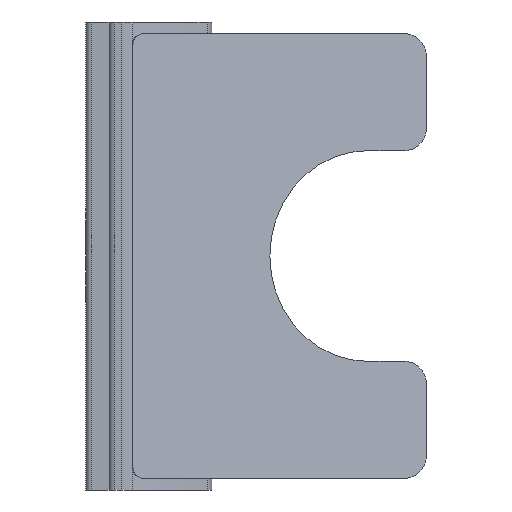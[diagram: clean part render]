
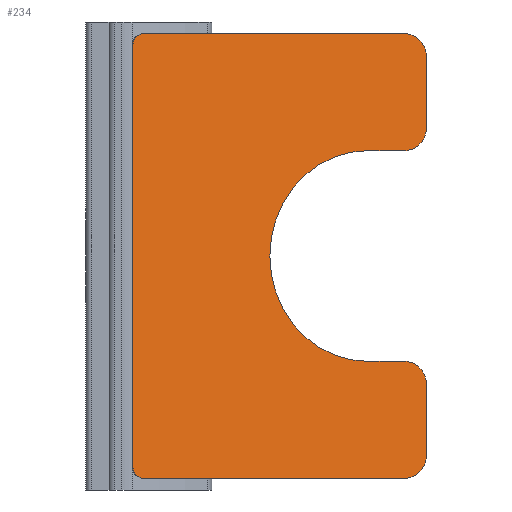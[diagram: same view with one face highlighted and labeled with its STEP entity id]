
A CAD part, left-side view. The second image highlights one B-rep face of the part: STEP entity #234.
In plain terms, the highlighted planar face has unit normal (-0.929, -0.37, 0) as drawn and (0, 0, 1) by its records, which use the part's own axes.
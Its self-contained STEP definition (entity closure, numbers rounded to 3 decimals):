
#5 = DIRECTION ( 'NONE',  ( 0., -1., 0. ) ) ;
#99 = CIRCLE ( 'NONE', #235, 1. ) ;
#112 = DIRECTION ( 'NONE',  ( -1., 0., 0. ) ) ;
#113 = ORIENTED_EDGE ( 'NONE', *, *, #1516, .T. ) ;
#139 = DIRECTION ( 'NONE',  ( -1., 0., 0. ) ) ;
#149 = CARTESIAN_POINT ( 'NONE',  ( -8.5, -1.7, 0.1 ) ) ;
#174 = VERTEX_POINT ( 'NONE', #421 ) ;
#180 = CARTESIAN_POINT ( 'NONE',  ( -4.5, -1.7, 0.1 ) ) ;
#187 = VERTEX_POINT ( 'NONE', #911 ) ;
#192 = VERTEX_POINT ( 'NONE', #198 ) ;
#198 = CARTESIAN_POINT ( 'NONE',  ( -8.5, -2.7, 0.1 ) ) ;
#202 = DIRECTION ( 'NONE',  ( 0., 1., 0. ) ) ;
#212 = CIRCLE ( 'NONE', #1144, 1. ) ;
#220 = EDGE_CURVE ( 'NONE', #192, #444, #789, .T. ) ;
#223 = CIRCLE ( 'NONE', #478, 1. ) ;
#225 = LINE ( 'NONE', #669, #575 ) ;
#234 = ADVANCED_FACE ( 'NONE', ( #1021 ), #1000, .F. ) ;
#235 = AXIS2_PLACEMENT_3D ( 'NONE', #626, #986, #1338 ) ;
#240 = ORIENTED_EDGE ( 'NONE', *, *, #1445, .T. ) ;
#243 = VERTEX_POINT ( 'NONE', #180 ) ;
#251 = CARTESIAN_POINT ( 'NONE',  ( 9.5, -1.7, 0.1 ) ) ;
#259 = EDGE_CURVE ( 'NONE', #1255, #1048, #878, .T. ) ;
#260 = VECTOR ( 'NONE', #1272, 1000. ) ;
#291 = DIRECTION ( 'NONE',  ( -1., 0., 0. ) ) ;
#307 = VERTEX_POINT ( 'NONE', #768 ) ;
#323 = EDGE_CURVE ( 'NONE', #1048, #1030, #785, .T. ) ;
#324 = CARTESIAN_POINT ( 'NONE',  ( -5.5, -2.7, 0.1 ) ) ;
#327 = CARTESIAN_POINT ( 'NONE',  ( 0., 0., 0.1 ) ) ;
#331 = VERTEX_POINT ( 'NONE', #637 ) ;
#347 = CARTESIAN_POINT ( 'NONE',  ( -9., 10.3, 0.1 ) ) ;
#350 = ORIENTED_EDGE ( 'NONE', *, *, #1310, .T. ) ;
#352 = ORIENTED_EDGE ( 'NONE', *, *, #971, .T. ) ;
#362 = ORIENTED_EDGE ( 'NONE', *, *, #815, .T. ) ;
#374 = EDGE_CURVE ( 'NONE', #174, #1350, #741, .T. ) ;
#376 = CARTESIAN_POINT ( 'NONE',  ( 8.5, -2.7, 0.1 ) ) ;
#407 = DIRECTION ( 'NONE',  ( -1., 0., 0. ) ) ;
#421 = CARTESIAN_POINT ( 'NONE',  ( 5.5, -2.7, 0.1 ) ) ;
#424 = EDGE_CURVE ( 'NONE', #187, #1061, #1459, .T. ) ;
#435 = VERTEX_POINT ( 'NONE', #924 ) ;
#436 = VECTOR ( 'NONE', #1019, 1000. ) ;
#444 = VERTEX_POINT ( 'NONE', #324 ) ;
#453 = CARTESIAN_POINT ( 'NONE',  ( 4.5, -1.7, 0.1 ) ) ;
#478 = AXIS2_PLACEMENT_3D ( 'NONE', #149, #1335, #625 ) ;
#486 = EDGE_CURVE ( 'NONE', #307, #187, #1375, .T. ) ;
#491 = DIRECTION ( 'NONE',  ( 1., 0., 0. ) ) ;
#507 = AXIS2_PLACEMENT_3D ( 'NONE', #327, #1163, #1050 ) ;
#522 = DIRECTION ( 'NONE',  ( 0., 0., 1. ) ) ;
#528 = CARTESIAN_POINT ( 'NONE',  ( -8.5, -1.7, 0.1 ) ) ;
#533 = ORIENTED_EDGE ( 'NONE', *, *, #374, .T. ) ;
#567 = EDGE_CURVE ( 'NONE', #853, #192, #223, .T. ) ;
#575 = VECTOR ( 'NONE', #202, 1000. ) ;
#583 = CARTESIAN_POINT ( 'NONE',  ( -9., 10.8, 0.1 ) ) ;
#593 = DIRECTION ( 'NONE',  ( 0., 0., 1. ) ) ;
#625 = DIRECTION ( 'NONE',  ( -1., 0., 0. ) ) ;
#626 = CARTESIAN_POINT ( 'NONE',  ( 5.5, -1.7, 0.1 ) ) ;
#631 = ORIENTED_EDGE ( 'NONE', *, *, #220, .T. ) ;
#637 = CARTESIAN_POINT ( 'NONE',  ( -9.5, 10.3, 0.1 ) ) ;
#642 = DIRECTION ( 'NONE',  ( 0., 1., 0. ) ) ;
#644 = DIRECTION ( 'NONE',  ( -1., 0., 0. ) ) ;
#669 = CARTESIAN_POINT ( 'NONE',  ( -4.5, 0., 0.1 ) ) ;
#700 = ORIENTED_EDGE ( 'NONE', *, *, #323, .T. ) ;
#731 = LINE ( 'NONE', #583, #1093 ) ;
#735 = AXIS2_PLACEMENT_3D ( 'NONE', #948, #593, #139 ) ;
#741 = LINE ( 'NONE', #1332, #1354 ) ;
#753 = CARTESIAN_POINT ( 'NONE',  ( -9.5, -1.7, 0.1 ) ) ;
#760 = ORIENTED_EDGE ( 'NONE', *, *, #1166, .T. ) ;
#768 = CARTESIAN_POINT ( 'NONE',  ( -4.5, 0., 0.1 ) ) ;
#785 = CIRCLE ( 'NONE', #1362, 0.5 ) ;
#789 = LINE ( 'NONE', #1371, #436 ) ;
#815 = EDGE_CURVE ( 'NONE', #1061, #174, #99, .T. ) ;
#826 = DIRECTION ( 'NONE',  ( 0., 0., 1. ) ) ;
#853 = VERTEX_POINT ( 'NONE', #753 ) ;
#875 = CARTESIAN_POINT ( 'NONE',  ( 4.5, -1.7, 0.1 ) ) ;
#878 = LINE ( 'NONE', #1451, #1100 ) ;
#911 = CARTESIAN_POINT ( 'NONE',  ( 4.5, 0., 0.1 ) ) ;
#924 = CARTESIAN_POINT ( 'NONE',  ( -9., 10.8, 0.1 ) ) ;
#948 = CARTESIAN_POINT ( 'NONE',  ( 8.5, -1.7, 0.1 ) ) ;
#949 = CIRCLE ( 'NONE', #1267, 0.5 ) ;
#971 = EDGE_CURVE ( 'NONE', #444, #243, #212, .T. ) ;
#975 = CARTESIAN_POINT ( 'NONE',  ( 9.5, 10.3, 0.1 ) ) ;
#981 = CARTESIAN_POINT ( 'NONE',  ( 9., 10.8, 0.1 ) ) ;
#985 = CARTESIAN_POINT ( 'NONE',  ( -5.5, -1.7, 0.1 ) ) ;
#986 = DIRECTION ( 'NONE',  ( 0., 0., 1. ) ) ;
#1000 = PLANE ( 'NONE',  #1431 ) ;
#1019 = DIRECTION ( 'NONE',  ( 1., 0., 0. ) ) ;
#1021 = FACE_OUTER_BOUND ( 'NONE', #1493, .T. ) ;
#1030 = VERTEX_POINT ( 'NONE', #981 ) ;
#1048 = VERTEX_POINT ( 'NONE', #975 ) ;
#1050 = DIRECTION ( 'NONE',  ( 1., 0., 0. ) ) ;
#1061 = VERTEX_POINT ( 'NONE', #875 ) ;
#1093 = VECTOR ( 'NONE', #1286, 1000. ) ;
#1095 = ORIENTED_EDGE ( 'NONE', *, *, #259, .T. ) ;
#1100 = VECTOR ( 'NONE', #642, 1000. ) ;
#1109 = DIRECTION ( 'NONE',  ( 0., 0., 1. ) ) ;
#1114 = ORIENTED_EDGE ( 'NONE', *, *, #486, .T. ) ;
#1122 = CARTESIAN_POINT ( 'NONE',  ( 9., 10.3, 0.1 ) ) ;
#1144 = AXIS2_PLACEMENT_3D ( 'NONE', #985, #1109, #291 ) ;
#1163 = DIRECTION ( 'NONE',  ( 0., 0., -1. ) ) ;
#1166 = EDGE_CURVE ( 'NONE', #243, #307, #225, .T. ) ;
#1200 = ORIENTED_EDGE ( 'NONE', *, *, #424, .T. ) ;
#1202 = EDGE_CURVE ( 'NONE', #1350, #1255, #1273, .T. ) ;
#1211 = ORIENTED_EDGE ( 'NONE', *, *, #1202, .T. ) ;
#1255 = VERTEX_POINT ( 'NONE', #251 ) ;
#1261 = LINE ( 'NONE', #1427, #1429 ) ;
#1267 = AXIS2_PLACEMENT_3D ( 'NONE', #347, #826, #112 ) ;
#1272 = DIRECTION ( 'NONE',  ( 0., -1., 0. ) ) ;
#1273 = CIRCLE ( 'NONE', #735, 1. ) ;
#1286 = DIRECTION ( 'NONE',  ( -1., 0., 0. ) ) ;
#1310 = EDGE_CURVE ( 'NONE', #331, #853, #1261, .T. ) ;
#1332 = CARTESIAN_POINT ( 'NONE',  ( 8.5, -2.7, 0.1 ) ) ;
#1335 = DIRECTION ( 'NONE',  ( 0., 0., 1. ) ) ;
#1338 = DIRECTION ( 'NONE',  ( -1., 0., 0. ) ) ;
#1350 = VERTEX_POINT ( 'NONE', #376 ) ;
#1354 = VECTOR ( 'NONE', #491, 1000. ) ;
#1357 = DIRECTION ( 'NONE',  ( 0., 0., -1. ) ) ;
#1362 = AXIS2_PLACEMENT_3D ( 'NONE', #1122, #522, #407 ) ;
#1371 = CARTESIAN_POINT ( 'NONE',  ( -5.5, -2.7, 0.1 ) ) ;
#1375 = CIRCLE ( 'NONE', #507, 4.5 ) ;
#1427 = CARTESIAN_POINT ( 'NONE',  ( -9.5, -1.7, 0.1 ) ) ;
#1429 = VECTOR ( 'NONE', #5, 1000. ) ;
#1431 = AXIS2_PLACEMENT_3D ( 'NONE', #528, #1357, #644 ) ;
#1445 = EDGE_CURVE ( 'NONE', #435, #331, #949, .T. ) ;
#1451 = CARTESIAN_POINT ( 'NONE',  ( 9.5, 10.3, 0.1 ) ) ;
#1459 = LINE ( 'NONE', #453, #260 ) ;
#1489 = ORIENTED_EDGE ( 'NONE', *, *, #567, .T. ) ;
#1493 = EDGE_LOOP ( 'NONE', ( #1489, #631, #352, #760, #1114, #1200, #362, #533, #1211, #1095, #700, #113, #240, #350 ) ) ;
#1516 = EDGE_CURVE ( 'NONE', #1030, #435, #731, .T. ) ;
